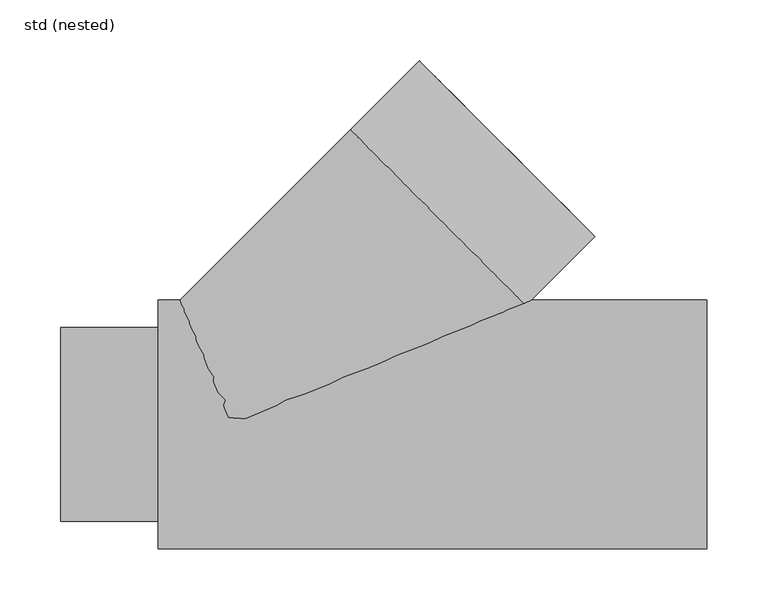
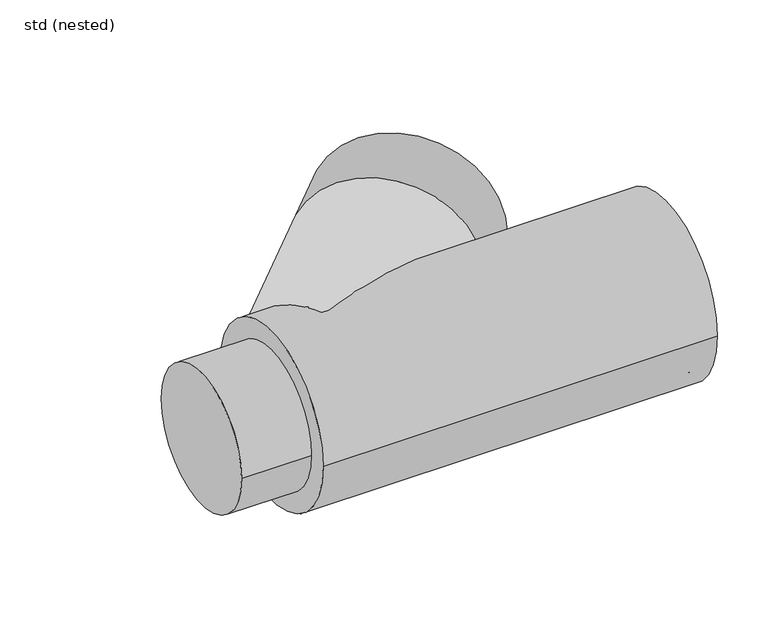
"""IFC4 building model written with IfcOpenShell, lengths in millimetres: pipe fitting geometry, ZZZ_do not use_PIF_ST_WPB_GM-X compound pipe tee_ACO : std (nested)."""

from ifc_helpers import new_model, si_unit, point, frame, origin, origin_2d, place, context, project, spatial, polyline, circle_curve, ellipse_curve, trimmed, segment, composite_curve, outline, extrude, source, transform, mapped, element, save
from ifc_brep_helpers import plane_surface, cylinder_surface, revolved_surface, advanced_brep


def std_nested_4907b57b(model_context):
    return source(origin(), model_context, "Body", "SolidModel", [
        advanced_brep(
        [(155.5634919, 283.5498193, 0.0), (283.5498193, 155.5634919, 0.0), (258.4475285, 130.4612011, 0.0), (130.4612011, 258.4475285, 0.0), (285.6711396, 166.8772004, 0.0), (166.8772004, 285.6711396, 0.0), (170.0591809, 282.4891591, 0.0), (282.4891591, 170.0591809, 0.0), (229.1025971, 110.3086579, 0.0), (110.3086579, 229.1025971, 0.0), (225.9206166, 113.4906384, 0.0), (113.4906384, 225.9206166, 0.0), (278.9536252, 160.1596859, 0.0), (160.1596859, 278.9536252, 0.0), (135.0573952, 253.8513344, 0.0), (253.8513344, 135.0573952, 0.0)],
        [
            (0, 1, circle_curve(frame((219.5566556, 219.5566556, 0.0), z_axis=(-0.7071067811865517, -0.7071067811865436, 0.0), x_axis=(-0.7071067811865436, 0.7071067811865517, 0.0)), 90.5)),
            (1, 2),
            (2, 3, circle_curve(frame((194.4543648, 194.4543648, 0.0), z_axis=(0.7071067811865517, 0.7071067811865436, 0.0), x_axis=(-0.7071067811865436, 0.7071067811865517, 0.0)), 90.5)),
            (3, 0),
            (1, 0, circle_curve(frame((219.5566556, 219.5566556, 0.0), z_axis=(-0.7071067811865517, -0.7071067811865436, 0.0), x_axis=(-0.7071067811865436, 0.7071067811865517, 0.0)), 90.5)),
            (3, 2, circle_curve(frame((194.4543648, 194.4543648, 0.0), z_axis=(0.7071067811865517, 0.7071067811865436, 0.0), x_axis=(-0.7071067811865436, 0.7071067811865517, 0.0)), 90.5)),
            (4, 5, circle_curve(frame((226.27417, 226.27417, 0.0), z_axis=(0.7071067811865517, 0.7071067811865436, 0.0), x_axis=(-0.7071067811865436, 0.7071067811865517, 0.0)), 84.0)),
            (5, 4, circle_curve(frame((226.27417, 226.27417, 0.0), z_axis=(0.7071067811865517, 0.7071067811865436, 0.0), x_axis=(-0.7071067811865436, 0.7071067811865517, 0.0)), 84.0)),
            (6, 7, circle_curve(frame((226.27417, 226.27417, 0.0), z_axis=(-0.7071067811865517, -0.7071067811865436, 0.0), x_axis=(-0.7071067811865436, 0.7071067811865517, 0.0)), 79.5)),
            (7, 6, circle_curve(frame((226.27417, 226.27417, 0.0), z_axis=(-0.7071067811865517, -0.7071067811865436, 0.0), x_axis=(-0.7071067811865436, 0.7071067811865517, 0.0)), 79.5)),
            (8, 9, circle_curve(frame((169.7056275, 169.7056275, 0.0), z_axis=(-0.7071067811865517, -0.7071067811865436, 0.0), x_axis=(-0.7071067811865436, 0.7071067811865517, 0.0)), 84.0)),
            (9, 8, circle_curve(frame((169.7056275, 169.7056275, 0.0), z_axis=(-0.7071067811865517, -0.7071067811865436, 0.0), x_axis=(-0.7071067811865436, 0.7071067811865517, 0.0)), 84.0)),
            (10, 11, circle_curve(frame((169.7056275, 169.7056275, 0.0), z_axis=(0.7071067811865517, 0.7071067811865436, 0.0), x_axis=(-0.7071067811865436, 0.7071067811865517, 0.0)), 79.5)),
            (11, 10, circle_curve(frame((169.7056275, 169.7056275, 0.0), z_axis=(0.7071067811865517, 0.7071067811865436, 0.0), x_axis=(-0.7071067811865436, 0.7071067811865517, 0.0)), 79.5)),
            (4, 12),
            (12, 13, circle_curve(frame((219.5566556, 219.5566556, 0.0), z_axis=(0.7071067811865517, 0.7071067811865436, 0.0), x_axis=(-0.7071067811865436, 0.7071067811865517, 0.0)), 84.0)),
            (13, 5),
            (9, 14),
            (14, 15, circle_curve(frame((194.4543648, 194.4543648, 0.0), z_axis=(-0.7071067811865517, -0.7071067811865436, 0.0), x_axis=(-0.7071067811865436, 0.7071067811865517, 0.0)), 84.0)),
            (15, 8),
            (13, 12, circle_curve(frame((219.5566556, 219.5566556, 0.0), z_axis=(0.7071067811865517, 0.7071067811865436, 0.0), x_axis=(-0.7071067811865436, 0.7071067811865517, 0.0)), 84.0)),
            (15, 14, circle_curve(frame((194.4543648, 194.4543648, 0.0), z_axis=(-0.7071067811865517, -0.7071067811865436, 0.0), x_axis=(-0.7071067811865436, 0.7071067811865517, 0.0)), 84.0)),
            (6, 11),
            (10, 7),
        ],
        [
            cylinder_surface(frame((194.4543648, 194.4543648, 0.0), z_axis=(0.7071067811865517, 0.7071067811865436, 0.0), x_axis=(-0.7071067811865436, 0.7071067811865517, 0.0)), 90.5),
            plane_surface(frame((166.8772004, 285.6711396, 0.0), z_axis=(0.7071067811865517, 0.7071067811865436, 0.0), x_axis=(0.0, 0.0, 1.0))),
            plane_surface(frame((110.3086579, 229.1025971, 0.0), z_axis=(-0.7071067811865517, -0.7071067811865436, 0.0), x_axis=(0.0, 0.0, -1.0))),
            cylinder_surface(frame((169.7056275, 169.7056275, 0.0), z_axis=(0.7071067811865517, 0.7071067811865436, 0.0), x_axis=(-0.7071067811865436, 0.7071067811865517, 0.0)), 84.0),
            revolved_surface(polyline([(170.05918089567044, 282.4891591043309, 0.0), (113.49063839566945, 225.92061660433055, 0.0)]), (169.7056275, 169.7056275, 0.0), (0.7071067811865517, 0.7071067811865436, 0.0)),
            plane_surface(frame((155.5634919, 283.5498193, 0.0), z_axis=(0.7071067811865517, 0.7071067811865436, 0.0), x_axis=(0.0, 0.0, 1.0))),
            plane_surface(frame((130.4612011, 258.4475285, 0.0), z_axis=(-0.7071067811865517, -0.7071067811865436, 0.0), x_axis=(0.0, 0.0, -1.0))),
        ],
        [
            (0, [[1, 2, 3, 4]]),
            (0, [[5, -4, 6, -2]]),
            (1, [[7, 8], [9, 10]]),
            (2, [[11, 12], [13, 14]]),
            (3, [[-7, 15, 16, 17]]),
            (3, [[-12, 18, 19, 20]]),
            (3, [[-8, -17, 21, -15]]),
            (3, [[-11, -20, 22, -18]]),
            (4, [[23, -13, 24, -9]]),
            (4, [[-23, -10, -24, -14]]),
            (5, [[-1, -5], [-16, -21]]),
            (6, [[-6, -3], [-19, -22]]),
        ],
    ),
        advanced_brep(
        [(380.5, 90.5, 0.0), (380.5, -90.5, 0.0), (345.0, -90.5, 0.0), (345.0, 90.5, 0.0), (390.0, -84.0, 0.0), (390.0, 84.0, 0.0), (390.0, 79.5, 0.0), (390.0, -79.5, 0.0), (310.0, -84.0, 0.0), (310.0, 84.0, 0.0), (310.0, -79.5, 0.0), (310.0, 79.5, 0.0), (380.5, -84.0, 0.0), (380.5, 84.0, 0.0), (345.0, 84.0, 0.0), (345.0, -84.0, 0.0)],
        [
            (0, 1, circle_curve(frame((380.5, 0.0, 0.0), z_axis=(-1.0, 0.0, 0.0), x_axis=(0.0, 1.0, 0.0)), 90.5)),
            (1, 2),
            (2, 3, circle_curve(frame((345.0, 0.0, 0.0), z_axis=(1.0, 0.0, 0.0), x_axis=(0.0, 1.0, 0.0)), 90.5)),
            (3, 0),
            (1, 0, circle_curve(frame((380.5, 0.0, 0.0), z_axis=(-1.0, 0.0, 0.0), x_axis=(0.0, 1.0, 0.0)), 90.5)),
            (3, 2, circle_curve(frame((345.0, 0.0, 0.0), z_axis=(1.0, 0.0, 0.0), x_axis=(0.0, 1.0, 0.0)), 90.5)),
            (4, 5, circle_curve(frame((390.0, 0.0, 0.0), z_axis=(1.0, 0.0, 0.0), x_axis=(0.0, 1.0, 0.0)), 84.0)),
            (5, 4, circle_curve(frame((390.0, 0.0, 0.0), z_axis=(1.0, 0.0, 0.0), x_axis=(0.0, 1.0, 0.0)), 84.0)),
            (6, 7, circle_curve(frame((390.0, 0.0, 0.0), z_axis=(-1.0, 0.0, 0.0), x_axis=(0.0, 1.0, 0.0)), 79.5)),
            (7, 6, circle_curve(frame((390.0, 0.0, 0.0), z_axis=(-1.0, 0.0, 0.0), x_axis=(0.0, 1.0, 0.0)), 79.5)),
            (8, 9, circle_curve(frame((310.0, 0.0, 0.0), z_axis=(-1.0, 0.0, 0.0), x_axis=(0.0, 1.0, 0.0)), 84.0)),
            (9, 8, circle_curve(frame((310.0, 0.0, 0.0), z_axis=(-1.0, 0.0, 0.0), x_axis=(0.0, 1.0, 0.0)), 84.0)),
            (10, 11, circle_curve(frame((310.0, 0.0, 0.0), z_axis=(1.0, 0.0, 0.0), x_axis=(0.0, 1.0, 0.0)), 79.5)),
            (11, 10, circle_curve(frame((310.0, 0.0, 0.0), z_axis=(1.0, 0.0, 0.0), x_axis=(0.0, 1.0, 0.0)), 79.5)),
            (4, 12),
            (12, 13, circle_curve(frame((380.5, 0.0, 0.0), z_axis=(1.0, 0.0, 0.0), x_axis=(0.0, 1.0, 0.0)), 84.0)),
            (13, 5),
            (9, 14),
            (14, 15, circle_curve(frame((345.0, 0.0, 0.0), z_axis=(-1.0, 0.0, 0.0), x_axis=(0.0, 1.0, 0.0)), 84.0)),
            (15, 8),
            (13, 12, circle_curve(frame((380.5, 0.0, 0.0), z_axis=(1.0, 0.0, 0.0), x_axis=(0.0, 1.0, 0.0)), 84.0)),
            (15, 14, circle_curve(frame((345.0, 0.0, 0.0), z_axis=(-1.0, 0.0, 0.0), x_axis=(0.0, 1.0, 0.0)), 84.0)),
            (6, 11),
            (10, 7),
        ],
        [
            cylinder_surface(frame((345.0, 0.0, 0.0), z_axis=(1.0, 0.0, 0.0), x_axis=(0.0, 1.0, 0.0)), 90.5),
            plane_surface(frame((390.0, 84.0, 0.0), z_axis=(1.0, 0.0, 0.0), x_axis=(0.0, 0.0, 1.0))),
            plane_surface(frame((310.0, 84.0, 0.0), z_axis=(-1.0, 0.0, 0.0), x_axis=(0.0, 0.0, -1.0))),
            cylinder_surface(frame((310.0, 0.0, 0.0), z_axis=(1.0, 0.0, 0.0), x_axis=(0.0, 1.0, 0.0)), 84.0),
            revolved_surface(polyline([(390.0, 79.5, 0.0), (310.0, 79.5, 0.0)]), (310.0, 0.0, 0.0), (1.0, 0.0, 0.0)),
            plane_surface(frame((380.5, 90.5, 0.0), z_axis=(1.0, 0.0, 0.0), x_axis=(0.0, 0.0, 1.0))),
            plane_surface(frame((345.0, 90.5, 0.0), z_axis=(-1.0, 0.0, 0.0), x_axis=(0.0, 0.0, -1.0))),
        ],
        [
            (0, [[1, 2, 3, 4]]),
            (0, [[5, -4, 6, -2]]),
            (1, [[7, 8], [9, 10]]),
            (2, [[11, 12], [13, 14]]),
            (3, [[-7, 15, 16, 17]]),
            (3, [[-12, 18, 19, 20]]),
            (3, [[-8, -17, 21, -15]]),
            (3, [[-11, -20, 22, -18]]),
            (4, [[23, -13, 24, -9]]),
            (4, [[-23, -10, -24, -14]]),
            (5, [[-1, -5], [-16, -21]]),
            (6, [[-6, -3], [-19, -22]]),
        ],
    ),
        advanced_brep(
        [(-60.0, -102.0, 0.0), (-60.0, 102.0, 0.0), (390.0, -102.0, 0.0), (390.0, 102.0, 0.0), (390.0, -84.0, 0.0), (390.0, 84.0, 0.0), (310.0, 84.0, 0.0), (310.0, -84.0, 0.0)],
        [
            (0, 1, circle_curve(frame((-60.0, 0.0, 0.0), z_axis=(-1.0, 0.0, 0.0), x_axis=(0.0, 1.0, 0.0)), 102.0)),
            (1, 0, circle_curve(frame((-60.0, 0.0, 0.0), z_axis=(-1.0, 0.0, 0.0), x_axis=(0.0, 1.0, 0.0)), 102.0)),
            (2, 3, circle_curve(frame((390.0, 0.0, 0.0), z_axis=(1.0, 0.0, 0.0), x_axis=(0.0, 1.0, 0.0)), 102.0)),
            (3, 2, circle_curve(frame((390.0, 0.0, 0.0), z_axis=(1.0, 0.0, 0.0), x_axis=(0.0, 1.0, 0.0)), 102.0)),
            (4, 5, circle_curve(frame((390.0, 0.0, 0.0), z_axis=(-1.0, 0.0, 0.0), x_axis=(0.0, -1.0, 0.0)), 84.0)),
            (5, 4, circle_curve(frame((390.0, 0.0, 0.0), z_axis=(-1.0, 0.0, 0.0), x_axis=(0.0, -1.0, 0.0)), 84.0)),
            (0, 2),
            (3, 1),
            (6, 7, circle_curve(frame((310.0, 0.0, 0.0), z_axis=(1.0, 0.0, 0.0), x_axis=(0.0, -1.0, 0.0)), 84.0)),
            (7, 6, circle_curve(frame((310.0, 0.0, 0.0), z_axis=(1.0, 0.0, 0.0), x_axis=(0.0, -1.0, 0.0)), 84.0)),
            (6, 5),
            (4, 7),
        ],
        [
            plane_surface(frame((-60.0, 102.0, 0.0), z_axis=(-1.0, 0.0, 0.0), x_axis=(0.0, 0.0, -1.0))),
            plane_surface(frame((390.0, 102.0, 0.0), z_axis=(1.0, 0.0, 0.0), x_axis=(0.0, 0.0, 1.0))),
            cylinder_surface(frame((390.0, 0.0, 0.0), z_axis=(-1.0, 0.0, 0.0), x_axis=(0.0, 1.0, 0.0)), 102.0),
            plane_surface(frame((310.0, -84.0, 0.0), z_axis=(1.0, 0.0, 0.0), x_axis=(0.0, 0.0, 1.0))),
            revolved_surface(polyline([(390.0, -84.0, 0.0), (310.0, -84.0, 0.0)]), (310.0, 0.0, 0.0), (1.0, 0.0, 0.0)),
        ],
        [
            (0, [[1, 2]]),
            (1, [[3, 4], [5, 6]]),
            (2, [[-1, 7, -4, 8]]),
            (2, [[-2, -8, -3, -7]]),
            (3, [[9, 10]]),
            (4, [[-9, 11, -5, 12]]),
            (4, [[-10, -12, -6, -11]]),
        ],
    ),
        extrude(outline(composite_curve([segment(trimmed(circle_curve(origin_2d(), 79.5), [point((-79.5, 0.0))], [point((79.5, 0.0))], False, "CARTESIAN"), True, "CONTINUOUS"), segment(trimmed(circle_curve(origin_2d(), 79.5), [point((79.5, 0.0))], [point((-79.5, 0.0))], False, "CARTESIAN"), True, "CONTINUOUS")], self_intersect=False)), frame((-140.0, 0.0, 0.0), z_axis=(1.0, 0.0, 0.0), x_axis=(0.0, 1.0, 0.0)), (0.0, 0.0, 1.0), 80.0),
        advanced_brep(
        [(285.6711396, 166.8772004, 0.0), (229.1025971, 110.3086579, 0.0), (110.3086579, 229.1025971, 0.0), (166.8772004, 285.6711396, 0.0), (154.1492783, 298.3990617, 0.0), (298.3990617, 154.1492783, 0.0), (97.5807358, 241.8305192, 0.0), (240.0, 99.411255, 22.8342371), (246.2497834, 102.0, 0.0), (240.0, 99.411255, -22.8342371), (-42.2497834, 102.0, 0.0), (0.0, 0.0, 102.0), (0.0, 0.0, -102.0)],
        [
            (0, 1),
            (1, 2, circle_curve(frame((169.7056275, 169.7056275, 0.0), z_axis=(-0.7071067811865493, -0.7071067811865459, 0.0), x_axis=(0.7071067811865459, -0.7071067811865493, 0.0)), 84.0)),
            (2, 3),
            (3, 0, circle_curve(frame((226.27417, 226.27417, 0.0), z_axis=(0.7071067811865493, 0.7071067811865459, 0.0), x_axis=(0.7071067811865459, -0.7071067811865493, 0.0)), 84.0)),
            (0, 3, circle_curve(frame((226.27417, 226.27417, 0.0), z_axis=(0.7071067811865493, 0.7071067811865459, 0.0), x_axis=(0.7071067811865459, -0.7071067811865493, 0.0)), 84.0)),
            (2, 1, circle_curve(frame((169.7056275, 169.7056275, 0.0), z_axis=(-0.7071067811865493, -0.7071067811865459, 0.0), x_axis=(0.7071067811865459, -0.7071067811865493, 0.0)), 84.0)),
            (4, 5, circle_curve(frame((226.27417, 226.27417, 0.0), z_axis=(0.7071067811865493, 0.7071067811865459, 0.0), x_axis=(0.7071067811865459, -0.7071067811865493, 0.0)), 102.0)),
            (5, 4, circle_curve(frame((226.27417, 226.27417, 0.0), z_axis=(0.7071067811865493, 0.7071067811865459, 0.0), x_axis=(0.7071067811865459, -0.7071067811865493, 0.0)), 102.0)),
            (4, 6),
            (6, 7, circle_curve(frame((169.7056275, 169.7056275, 0.0), z_axis=(0.7071067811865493, 0.7071067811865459, 0.0), x_axis=(0.7071067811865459, -0.7071067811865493, 0.0)), 102.0)),
            (7, 8, ellipse_curve(frame((0.0, 0.0, 0.0), z_axis=(-0.38268343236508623, 0.9238795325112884, 0.0), x_axis=(0.9238795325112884, 0.382683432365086, 0.0)), 266.5388448, 102.0)),
            (8, 5),
            (8, 9, ellipse_curve(frame((0.0, 0.0, 0.0), z_axis=(-0.38268343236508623, 0.9238795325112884, 0.0), x_axis=(0.9238795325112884, 0.382683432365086, 0.0)), 266.5388448, 102.0)),
            (9, 6, circle_curve(frame((169.7056275, 169.7056275, 0.0), z_axis=(0.7071067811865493, 0.7071067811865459, 0.0), x_axis=(0.7071067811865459, -0.7071067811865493, 0.0)), 102.0)),
            (10, 8),
            (7, 11, ellipse_curve(frame((0.0, 0.0, 0.0), z_axis=(0.3826834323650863, -0.9238795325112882, 0.0), x_axis=(-0.9238795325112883, -0.38268343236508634, 0.0)), 266.5388448, 102.0)),
            (11, 10, ellipse_curve(frame((0.0, 0.0, 0.0), z_axis=(-0.9238795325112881, -0.3826834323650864, 0.0), x_axis=(-0.38268343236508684, 0.923879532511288, 0.0)), 110.4040044, 102.0)),
            (10, 12, ellipse_curve(frame((0.0, 0.0, 0.0), z_axis=(-0.9238795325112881, -0.3826834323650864, 0.0), x_axis=(-0.38268343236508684, 0.923879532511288, 0.0)), 110.4040044, 102.0)),
            (12, 9, ellipse_curve(frame((0.0, 0.0, 0.0), z_axis=(0.3826834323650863, -0.9238795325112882, 0.0), x_axis=(-0.9238795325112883, -0.38268343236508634, 0.0)), 266.5388448, 102.0)),
            (6, 10),
        ],
        [
            revolved_surface(polyline([(285.67113961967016, 166.87720038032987, 0.0), (229.1025971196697, 110.3086578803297, 0.0)]), (169.7056275, 169.7056275, 0.0), (0.7071067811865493, 0.7071067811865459, 0.0)),
            plane_surface(frame((298.3990617, 154.1492783, 0.0), z_axis=(0.7071067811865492, 0.7071067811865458, 0.0), x_axis=(0.0, 0.0, -1.0))),
            cylinder_surface(frame((169.7056275, 169.7056275, 0.0), z_axis=(0.7071067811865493, 0.7071067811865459, 0.0), x_axis=(0.7071067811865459, -0.7071067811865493, 0.0)), 102.0),
            revolved_surface(polyline([(-246.24978332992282, 102.0, 0.0), (246.2497834, 102.0, 0.0)]), (390.0, 0.0, 0.0), (-1.0, 0.0, 0.0)),
            plane_surface(frame((169.7056275, 169.7056275, 0.0), z_axis=(0.7071067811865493, 0.7071067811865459, 0.0), x_axis=(0.0, 0.0, 1.0))),
            cylinder_surface(frame((169.7056275, 169.7056275, 0.0), z_axis=(-0.7071067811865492, -0.7071067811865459, 0.0), x_axis=(0.0, 0.0, 1.0)), 102.0),
            cylinder_surface(frame((169.7056275, 169.7056275, 0.0), z_axis=(-0.7071067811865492, -0.7071067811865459, 0.0), x_axis=(0.0, 0.0, -1.0)), 102.0),
        ],
        [
            (0, [[1, 2, 3, 4]]),
            (0, [[-1, 5, -3, 6]]),
            (1, [[7, 8], [-4, -5]]),
            (2, [[-7, 9, 10, 11, 12]]),
            (2, [[-8, -12, 13, 14, -9]]),
            (3, [[15, -11, 16, 17]]),
            (3, [[-15, 18, 19, -13]]),
            (4, [[-2, -6]]),
            (5, [[-10, 20, -17, -16]]),
            (6, [[-14, -19, -18, -20]]),
        ],
    ),
    ])


if __name__ == "__main__":
    model = new_model("IFC4")
    model_context = context("Model", 3, world=origin())
    ifc_project = project(units=[si_unit("LENGTHUNIT", "METRE", prefix="MILLI")], contexts=[model_context])
    site = spatial("IfcSite", under=ifc_project)
    building = spatial("IfcBuilding", under=site)
    placement = place(None, origin())
    std_nested_shape = std_nested_4907b57b(model_context)
    element("IfcPipeFitting", 1, ObjectType="ZZZ_do not use_PIF_ST_WPB_GM-X compound pipe tee_ACO : std (nested)", at=placement, inside=building, context=model_context, shape_type="MappedRepresentation", body=[
        mapped(std_nested_shape, transform((0.0, 0.0, 0.0), x_axis=(1.0, 0.0, 0.0), y_axis=(0.0, 1.0, 0.0), z_axis=(0.0, 0.0, 1.0))),
    ])
    save(model, "model.ifc")
